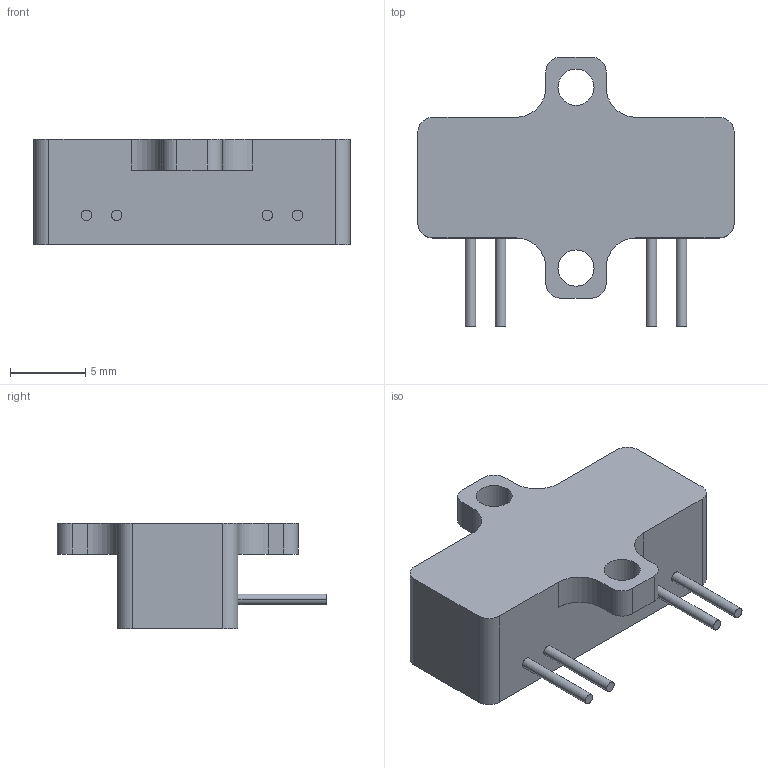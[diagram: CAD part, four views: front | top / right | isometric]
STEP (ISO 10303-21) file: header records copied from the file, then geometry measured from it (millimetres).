
FILE_DESCRIPTION (( 'STEP AP203' ), '1' );
FILE_NAME ('E1F10P.STEP', '2024-09-18T07:23:00', ( '' ), ( '' ), 'SwSTEP 2.0', 'SolidWorks 2022', '' );
FILE_SCHEMA (( 'CONFIG_CONTROL_DESIGN' ));
Length unit declared in the file: millimetre
Products named in the file (1): E1F10P
Bounding box: 21 x 17.9 x 7 mm (x, y, z)
Volume: 1221.7 mm3; surface area: 898.2 mm2
Topology: 1 solids, 1 shells, 48 faces, 120 edges, 80 vertices
Faces by surface type: cylinder 28, plane 20
Entity records: 1545 total; most frequent: DIRECTION 274, CARTESIAN_POINT 249, ORIENTED_EDGE 240, EDGE_CURVE 120, AXIS2_PLACEMENT_3D 105, VERTEX_POINT 80, LINE 64, VECTOR 64
